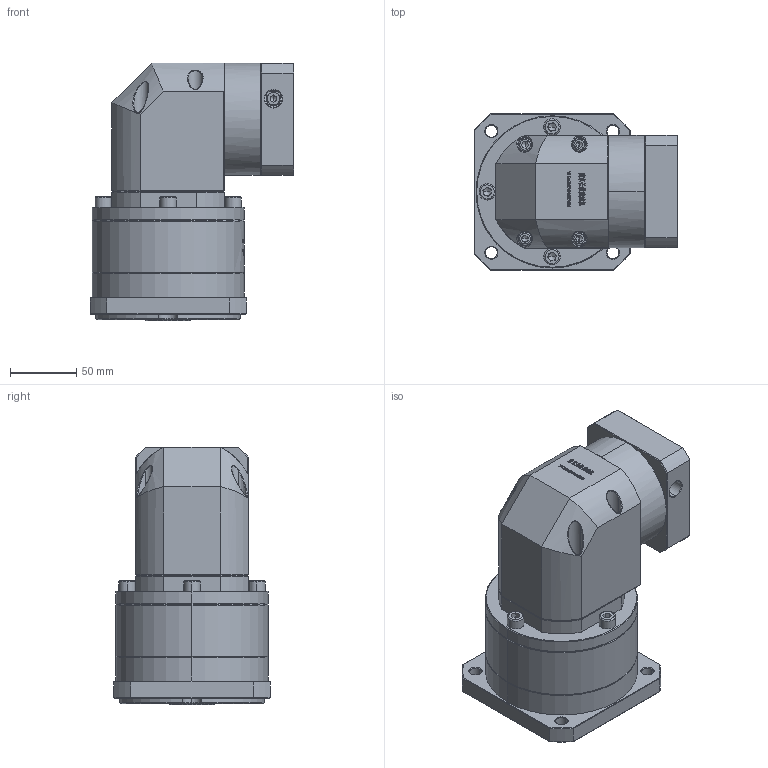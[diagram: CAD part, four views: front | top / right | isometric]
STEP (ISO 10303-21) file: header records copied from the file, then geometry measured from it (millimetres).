
FILE_DESCRIPTION (( 'STEP AP214' ), '1' );
FILE_NAME ('ZFR120A-K25-L2-19-70-90-M6.step', '2023-03-08T05:51:19', ( '' ), ( '' ), 'SwSTEP 2.0', 'SolidWorks 2016', '' );
FILE_SCHEMA (( 'AUTOMOTIVE_DESIGN' ));
Length unit declared in the file: millimetre
Products named in the file (1): ZFR120A-K25-L2-19-70-90-M6
Bounding box: 154.1 x 118 x 195 mm (x, y, z)
Volume: 1810965.3 mm3; surface area: 168373.3 mm2
Topology: 6 solids, 6 shells, 2943 faces, 7808 edges, 5011 vertices
Faces by surface type: plane 1571, bspline 616, cylinder 420, cone 322, torus 14
Entity records: 158161 total; most frequent: CARTESIAN_POINT 58517, ORIENTED_EDGE 15528, DIRECTION 11454, EDGE_CURVE 7764, VERTEX_POINT 5011, VECTOR 4876, LINE 4876, AXIS2_PLACEMENT_3D 3289
